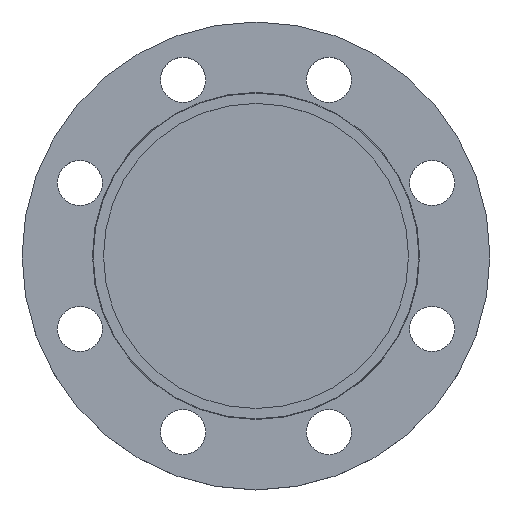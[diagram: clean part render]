
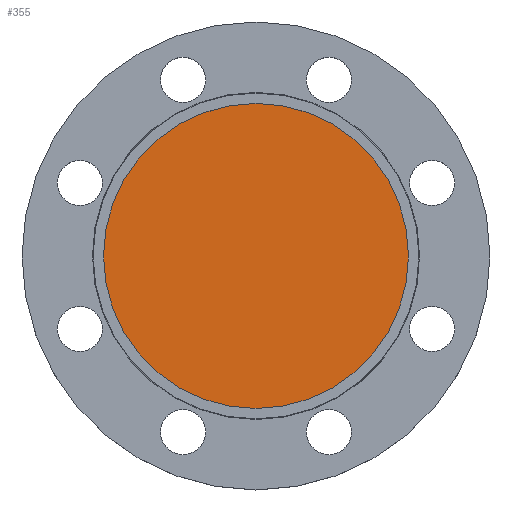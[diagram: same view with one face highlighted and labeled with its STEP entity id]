
A CAD part, top view. The second image highlights one B-rep face of the part: STEP entity #355.
In plain terms, the highlighted planar face has unit normal (0, 0, 1).
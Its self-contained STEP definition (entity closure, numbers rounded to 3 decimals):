
#106 = CARTESIAN_POINT ( 'NONE',  ( 88., 0., -4.5 ) ) ;
#123 = AXIS2_PLACEMENT_3D ( 'NONE', #519, #521, #522 ) ;
#140 = CIRCLE ( 'NONE', #123, 88. ) ;
#228 = EDGE_CURVE ( 'NONE', #721, #604, #553, .T. ) ;
#229 = PLANE ( 'NONE',  #314 ) ;
#234 = DIRECTION ( 'NONE',  ( 0., 0., 1. ) ) ;
#235 = FACE_OUTER_BOUND ( 'NONE', #1021, .T. ) ;
#238 = DIRECTION ( 'NONE',  ( 1., 0., 0. ) ) ;
#243 = CARTESIAN_POINT ( 'NONE',  ( 88., 0., -4.5 ) ) ;
#293 = EDGE_CURVE ( 'NONE', #604, #721, #140, .T. ) ;
#314 = AXIS2_PLACEMENT_3D ( 'NONE', #243, #234, #238 ) ;
#346 = AXIS2_PLACEMENT_3D ( 'NONE', #479, #480, #481 ) ;
#355 = ADVANCED_FACE ( 'NONE', ( #235 ), #229, .T. ) ;
#479 = CARTESIAN_POINT ( 'NONE',  ( 0., 0., -4.5 ) ) ;
#480 = DIRECTION ( 'NONE',  ( 0., 0., -1. ) ) ;
#481 = DIRECTION ( 'NONE',  ( -1., 0., 0. ) ) ;
#519 = CARTESIAN_POINT ( 'NONE',  ( 0., 0., -4.5 ) ) ;
#521 = DIRECTION ( 'NONE',  ( 0., 0., -1. ) ) ;
#522 = DIRECTION ( 'NONE',  ( -1., 0., 0. ) ) ;
#553 = CIRCLE ( 'NONE', #346, 88. ) ;
#604 = VERTEX_POINT ( 'NONE', #106 ) ;
#721 = VERTEX_POINT ( 'NONE', #1019 ) ;
#797 = ORIENTED_EDGE ( 'NONE', *, *, #228, .F. ) ;
#798 = ORIENTED_EDGE ( 'NONE', *, *, #293, .F. ) ;
#1019 = CARTESIAN_POINT ( 'NONE',  ( -88., 0., -4.5 ) ) ;
#1021 = EDGE_LOOP ( 'NONE', ( #797, #798 ) ) ;
